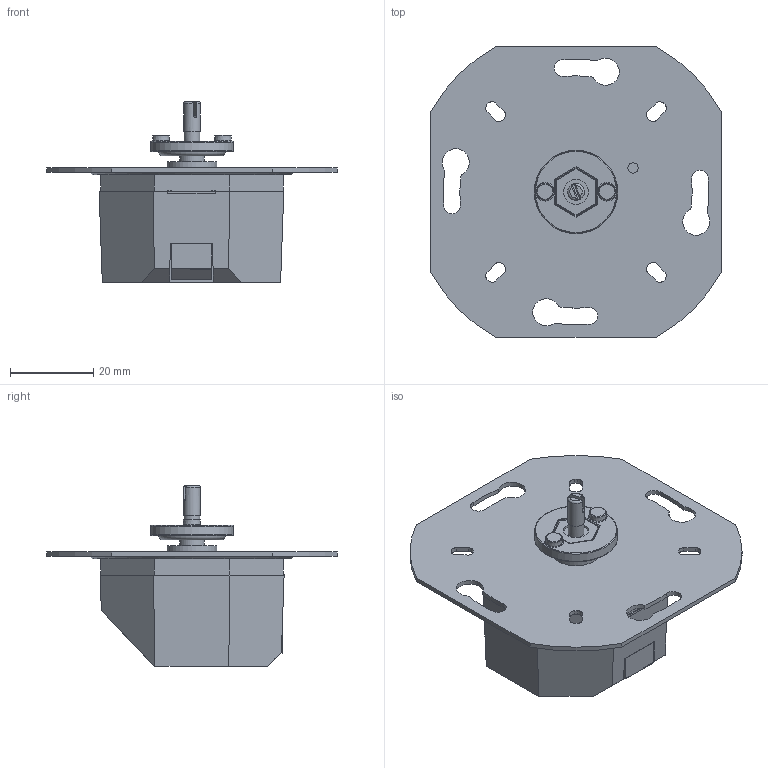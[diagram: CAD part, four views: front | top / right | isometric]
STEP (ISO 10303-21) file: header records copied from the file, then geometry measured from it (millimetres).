
FILE_DESCRIPTION(/* description */ ('Unknown'),/* implementation_level */ '2;1');
FILE_NAME(/* name */ 'DALI-ROT-PS',/* time_stamp */ '2023-07-15T22:10:35+02:00',/* author */ ('Unknown'),/* organization */ ('Unknown'),/* preprocessor_version */ 'ST-DEVELOPER v16.7',/* originating_system */ 'DEX',/* authorisation */ $);
FILE_SCHEMA (('AUTOMOTIVE_DESIGN {1 0 10303 214 3 1 1}'));
Length unit declared in the file: millimetre
Products named in the file (3): AsmRotaryPSandHousing; asmROTPS; Mutter
Assembly tree (2 placements, depth 2):
  AsmRotaryPSandHousing
    asmROTPS
    Mutter
Bounding box: 70 x 70 x 43.6 mm (x, y, z)
Volume: 44507.8 mm3; surface area: 16168.4 mm2
Topology: 2 solids, 2 shells, 313 faces, 841 edges, 547 vertices
Faces by surface type: plane 205, cylinder 85, cone 12, torus 9, bspline 2
Full cylindrical faces by diameter (mm): 2.5 x1, 3.8 x1, 4 x1, 6 x3, 7 x1, 7.241 x1, 9.6 x1, 12 x1, 21.438 x1
Entity records: 11875 total; most frequent: CARTESIAN_POINT 1788, ORIENTED_EDGE 1620, DIRECTION 1596, EDGE_CURVE 810, LINE 596, VECTOR 596, VERTEX_POINT 536, AXIS2_PLACEMENT_3D 500
